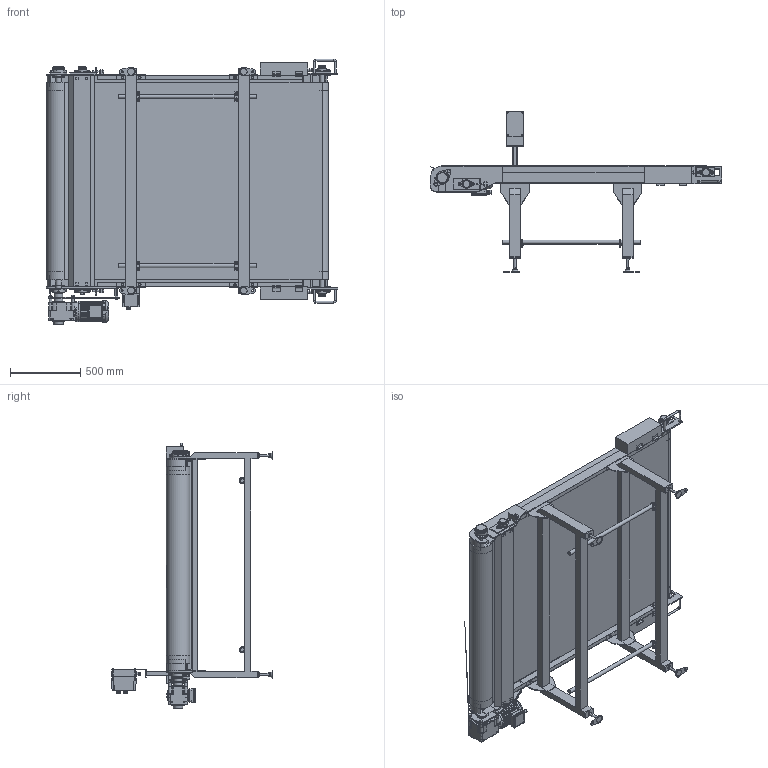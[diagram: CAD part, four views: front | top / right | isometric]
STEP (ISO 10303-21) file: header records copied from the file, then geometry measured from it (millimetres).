
FILE_DESCRIPTION( (''), '2;1');
FILE_NAME ('WEB-FB4H-375-1400-200-R-K-60.stp','2025-10-16T11:56:16',(''),(''),'spGate 20.6.2 (****-****-****-****)','','');
FILE_SCHEMA (('AUTOMOTIVE_DESIGN'));
Length unit declared in the file: millimetre
Products named in the file (94): WEB-FB4H-375-1400-200-R-K-60; TEMP_X_T-prt0; TEMP_X_T-prt1; TEMP_X_T-prt2; TEMP_X_T-prt3; TEMP_X_T-prt4; TEMP_X_T-prt5; TEMP_X_T-prt6; TEMP_X_T-prt7; TEMP_X_T-prt8; TEMP_X_T-prt9; TEMP_X_T-prt10; TEMP_X_T-prt11; TEMP_X_T-prt12; TEMP_X_T-prt13; TEMP_X_T-prt14; TEMP_X_T-prt15; TEMP_X_T-prt16; TEMP_X_T-prt17; TEMP_X_T-prt18; TEMP_X_T-prt19; TEMP_X_T-prt20; TEMP_X_T-prt21; TEMP_X_T-prt22; TEMP_X_T-prt23; TEMP_X_T-prt24; TEMP_X_T-prt25; TEMP_X_T-prt26; TEMP_X_T-prt27; TEMP_X_T-prt28; TEMP_X_T-prt29; TEMP_X_T-prt30; TEMP_X_T-prt31; TEMP_X_T-prt32; TEMP_X_T-prt33; TEMP_X_T-prt34; TEMP_X_T-prt35; TEMP_X_T-prt36; TEMP_X_T-prt37; TEMP_X_T-prt38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
Assembly tree (93 placements, depth 2):
  WEB-FB4H-375-1400-200-R-K-60
    TEMP_X_T-prt0
    TEMP_X_T-prt1
    TEMP_X_T-prt2
    TEMP_X_T-prt3
    TEMP_X_T-prt4
    TEMP_X_T-prt5
    TEMP_X_T-prt6
    TEMP_X_T-prt7
    TEMP_X_T-prt8
    TEMP_X_T-prt9
    TEMP_X_T-prt10
    TEMP_X_T-prt11
    TEMP_X_T-prt12
    TEMP_X_T-prt13
    TEMP_X_T-prt14
    TEMP_X_T-prt15
    TEMP_X_T-prt16
    TEMP_X_T-prt17
    TEMP_X_T-prt18
    TEMP_X_T-prt19
    TEMP_X_T-prt20
    TEMP_X_T-prt21
    TEMP_X_T-prt22
    TEMP_X_T-prt23
    TEMP_X_T-prt24
    TEMP_X_T-prt25
    TEMP_X_T-prt26
    TEMP_X_T-prt27
    TEMP_X_T-prt28
    TEMP_X_T-prt29
    TEMP_X_T-prt30
    TEMP_X_T-prt31
    TEMP_X_T-prt32
    TEMP_X_T-prt33
    TEMP_X_T-prt34
    TEMP_X_T-prt35
    TEMP_X_T-prt36
    TEMP_X_T-prt37
    TEMP_X_T-prt38
    TEMP_X_T-prt39
    TEMP_X_T-prt40
    TEMP_X_T-prt41
    TEMP_X_T-prt42
    TEMP_X_T-prt43
    TEMP_X_T-prt44
    TEMP_X_T-prt45
    TEMP_X_T-prt46
    TEMP_X_T-prt47
    TEMP_X_T-prt48
    TEMP_X_T-prt49
    TEMP_X_T-prt50
    TEMP_X_T-prt51
    TEMP_X_T-prt52
    TEMP_X_T-prt53
    TEMP_X_T-prt54
    TEMP_X_T-prt55
    TEMP_X_T-prt56
    TEMP_X_T-prt57
    TEMP_X_T-prt58
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Bounding box: 2065 x 1141 x 1886 mm (x, y, z)
Volume: 206478451.1 mm3; surface area: 24669803.3 mm2
Topology: 93 solids, 97 shells, 3392 faces, 8718 edges, 5876 vertices
Faces by surface type: plane 2038, cylinder 810, bspline 536, sphere 8
Full cylindrical faces by diameter (mm): 4.134 x4, 4.5 x12, 5 x8, 5.359 x6, 6 x18, 6.35 x6, 6.4 x2, 7 x16, 8 x16, 8.2 x1, 8.5 x4, 9 x4, 9.2 x4, 9.5 x4, 10 x14, 10.106 x8, 10.5 x4, 10.6 x4, 12 x16, 12.2 x5, 12.3 x3, 12.5 x6, 13 x4, 14 x14, 15 x2, 15.4 x8, 16 x21, 17 x16, 18 x1, 19 x3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
Entity records: 191338 total; most frequent: CARTESIAN_POINT 39443, ORIENTED_EDGE 17360, DIRECTION 15907, COLOUR_RGB 12165, PRESENTATION_STYLE_ASSIGNMENT 12165, STYLED_ITEM 12165, EDGE_CURVE 8680, DRAUGHTING_PRE_DEFINED_CURVE_FONT 8680
